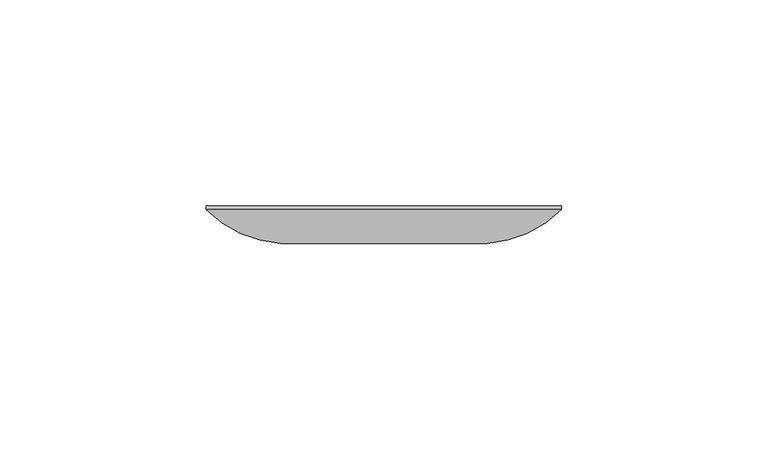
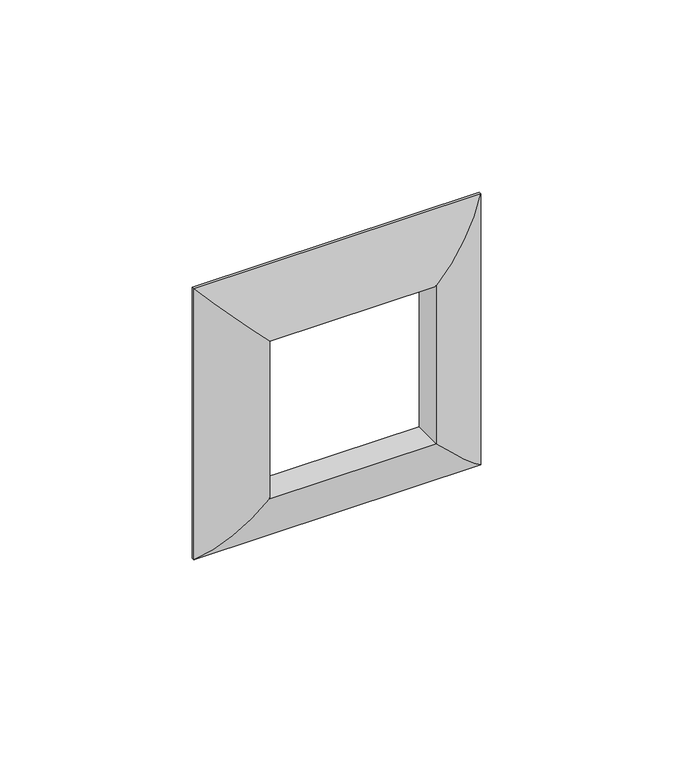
"""IFC4 building model written with IfcOpenShell, lengths in millimetres: proxy geometry, КНС_РамкаДляМонтажаЭУИBravaВКоробкиPDD-N60_DKC : 2 модуля."""

from ifc_helpers import new_model, si_unit, frame, origin, place, context, project, spatial, ellipse_curve, source, transform, mapped, element, save
from ifc_brep_helpers import plane_surface, cylinder_surface, advanced_brep


def electrical_fixtures_c9cc8b38(model_context):
    return source(origin(), model_context, "Body", "AdvancedBrep", [
        advanced_brep(
        [(25.0, -9.0, 24.9768143), (25.0, 0.0, 24.9768143), (25.0, 0.0, -24.9768143), (25.0, -9.0, -24.9768143), (43.0, -0.8, 42.9768143), (43.0, -0.8, -42.9768143), (43.0, 0.0, 42.9768143), (43.0, 0.0, -42.9768143), (-25.0, 0.0, -24.9768143), (-25.0, -9.0, -24.9768143), (-43.0, -0.8, -42.9768143), (-43.0, 0.0, -42.9768143), (-25.0, 0.0, 24.9768143), (-25.0, -9.0, 24.9768143), (-43.0, -0.8, 42.9768143), (-43.0, 0.0, 42.9768143)],
        [
            (0, 1),
            (1, 2),
            (2, 3),
            (3, 0),
            (4, 0, ellipse_curve(frame((23.2227605, 18.757355, 23.1995748), z_axis=(0.7071067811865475, 0.0, -0.7071067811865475), x_axis=(0.7071067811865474, 0.0, 0.7071067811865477)), 39.3352091, 27.8141931)),
            (3, 5, ellipse_curve(frame((23.2227605, 18.757355, -23.1995748), z_axis=(0.7071067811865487, 0.0, 0.7071067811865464), x_axis=(-0.7071067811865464, 0.0, 0.7071067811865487)), 39.3352091, 27.8141931)),
            (5, 4),
            (6, 4),
            (5, 7),
            (7, 6),
            (2, 8),
            (8, 9),
            (9, 3),
            (9, 10, ellipse_curve(frame((-23.2227605, 18.757355, -23.1995748), z_axis=(0.7071067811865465, 0.0, -0.7071067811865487), x_axis=(0.7071067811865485, 0.0, 0.7071067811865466)), 39.3352091, 27.8141931)),
            (10, 5),
            (10, 11),
            (11, 7),
            (8, 12),
            (12, 13),
            (13, 9),
            (13, 14, ellipse_curve(frame((-23.2227605, 18.757355, 23.1995748), z_axis=(-0.7071067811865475, 0.0, -0.7071067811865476), x_axis=(0.7071067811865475, 0.0, -0.7071067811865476)), 39.3352091, 27.8141931)),
            (14, 10),
            (14, 15),
            (15, 11),
            (12, 1),
            (0, 13),
            (4, 14),
            (6, 15),
        ],
        [
            plane_surface(frame((25.0, 0.0, 24.9768143), z_axis=(-1.0, 0.0, 0.0), x_axis=(0.0, 0.0, -1.0))),
            cylinder_surface(frame((23.2227605, 18.757355, 42.9768143), z_axis=(0.0, 0.0, 1.0), x_axis=(1.0, 0.0, 0.0)), 27.8141931),
            plane_surface(frame((43.0, -0.8, 42.9768143), z_axis=(1.0, 0.0, 0.0), x_axis=(0.0, 0.0, -1.0))),
            plane_surface(frame((25.0, 0.0, -24.9768143), z_axis=(0.0, 0.0, 1.0), x_axis=(-1.0, 0.0, 0.0))),
            cylinder_surface(frame((43.0, 18.757355, -23.1995748), z_axis=(1.0, 0.0, 0.0), x_axis=(0.0, 0.0, -1.0)), 27.8141931),
            plane_surface(frame((43.0, -0.8, -42.9768143), z_axis=(0.0, 0.0, -1.0), x_axis=(-1.0, 0.0, 0.0))),
            plane_surface(frame((-25.0, 0.0, -24.9768143), z_axis=(1.0, 0.0, 0.0), x_axis=(0.0, 0.0, 1.0))),
            cylinder_surface(frame((-23.2227605, 18.757355, -42.9768143), z_axis=(0.0, 0.0, -1.0), x_axis=(-1.0, 0.0, 0.0)), 27.8141931),
            plane_surface(frame((-43.0, -0.8, -42.9768143), z_axis=(-1.0, 0.0, 0.0), x_axis=(0.0, 0.0, 1.0))),
            plane_surface(frame((-25.0, 0.0, 24.9768143), z_axis=(0.0, 0.0, -1.0), x_axis=(1.0, 0.0, 0.0))),
            cylinder_surface(frame((-43.0, 18.757355, 23.1995748), z_axis=(-1.0, 0.0, 0.0), x_axis=(0.0, 0.0, 1.0)), 27.8141931),
            plane_surface(frame((-43.0, -0.8, 42.9768143), z_axis=(0.0, 0.0, 1.0), x_axis=(1.0, 0.0, 0.0))),
            plane_surface(frame((-43.0, 0.0, 42.9768143), z_axis=(0.0, 1.0, 0.0), x_axis=(1.0, 0.0, 0.0))),
        ],
        [
            (0, [[1, 2, 3, 4]]),
            (1, [[5, -4, 6, 7]]),
            (2, [[8, -7, 9, 10]]),
            (3, [[-3, 11, 12, 13]]),
            (4, [[-6, -13, 14, 15]]),
            (5, [[-9, -15, 16, 17]]),
            (6, [[-12, 18, 19, 20]]),
            (7, [[-14, -20, 21, 22]]),
            (8, [[-16, -22, 23, 24]]),
            (9, [[-19, 25, -1, 26]]),
            (10, [[-21, -26, -5, 27]]),
            (11, [[-23, -27, -8, 28]]),
            (12, [[-17, -24, -28, -10], [-25, -18, -11, -2]]),
        ],
    ),
    ])


if __name__ == "__main__":
    model = new_model("IFC4")
    model_context = context("Model", 3, world=origin())
    ifc_project = project(units=[si_unit("LENGTHUNIT", "METRE", prefix="MILLI")], contexts=[model_context])
    site = spatial("IfcSite", under=ifc_project)
    building = spatial("IfcBuilding", under=site)
    placement = place(None, origin())
    electrical_fixtures_shape = electrical_fixtures_c9cc8b38(model_context)
    element("IfcBuildingElementProxy", 1, Name="КНС_РамкаДляМонтажаЭУИBravaВКоробкиPDD-N60_DKC : 2 модуля", ObjectType="КНС_РамкаДляМонтажаЭУИBravaВКоробкиPDD-N60_DKC : 2 модуля", at=placement, inside=building, context=model_context, shape_type="MappedRepresentation", body=[
        mapped(electrical_fixtures_shape, transform((0.0, 0.0, 0.0), x_axis=(1.0, 0.0, 0.0), y_axis=(0.0, 1.0, 0.0), z_axis=(0.0, 0.0, 1.0))),
    ])
    save(model, "model.ifc")
